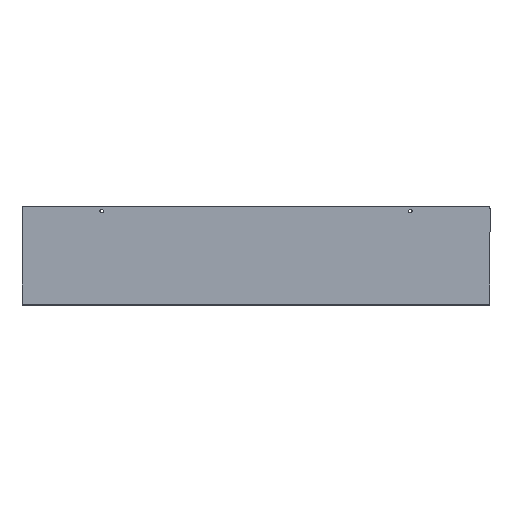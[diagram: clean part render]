
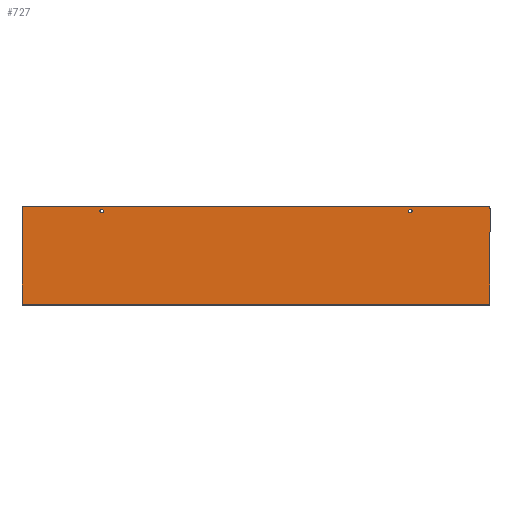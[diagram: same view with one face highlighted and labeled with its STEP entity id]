
A CAD part, top view. The second image highlights one B-rep face of the part: STEP entity #727.
In plain terms, the highlighted planar face has unit normal (0, 0, 1).
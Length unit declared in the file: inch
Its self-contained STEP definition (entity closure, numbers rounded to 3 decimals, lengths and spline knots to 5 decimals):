
#135=CARTESIAN_POINT('',(11.625,2.5,0.055));
#136=VERTEX_POINT('',#135);
#137=CARTESIAN_POINT('',(11.75,2.375,0.055));
#138=VERTEX_POINT('',#137);
#139=CARTESIAN_POINT('',(11.625,2.375,0.055));
#140=DIRECTION('',(0.0,0.0,-1.0));
#141=DIRECTION('',(0.707,0.707,0.0));
#142=AXIS2_PLACEMENT_3D('',#139,#140,#141);
#143=CIRCLE('',#142,0.125);
#144=EDGE_CURVE('',#136,#138,#143,.T.);
#186=CARTESIAN_POINT('',(-11.625,2.5,0.055));
#187=VERTEX_POINT('',#186);
#194=CARTESIAN_POINT('',(-11.625,2.5,0.055));
#195=DIRECTION('',(1.0,0.0,0.0));
#196=VECTOR('',#195,23.25);
#197=LINE('',#194,#196);
#198=EDGE_CURVE('',#187,#136,#197,.T.);
#271=CARTESIAN_POINT('',(-11.75,2.375,0.055));
#272=VERTEX_POINT('',#271);
#273=CARTESIAN_POINT('',(-11.625,2.375,0.055));
#274=DIRECTION('',(0.0,0.0,-1.0));
#275=DIRECTION('',(-0.707,0.707,0.0));
#276=AXIS2_PLACEMENT_3D('',#273,#274,#275);
#277=CIRCLE('',#276,0.125);
#278=EDGE_CURVE('',#272,#187,#277,.T.);
#298=CARTESIAN_POINT('',(-11.75,-2.414,0.055));
#299=VERTEX_POINT('',#298);
#306=CARTESIAN_POINT('',(-11.75,-2.414,0.055));
#307=DIRECTION('',(0.0,1.0,0.0));
#308=VECTOR('',#307,4.789);
#309=LINE('',#306,#308);
#310=EDGE_CURVE('',#299,#272,#309,.T.);
#527=CARTESIAN_POINT('',(-7.8385,2.25,0.055));
#528=VERTEX_POINT('',#527);
#529=CARTESIAN_POINT('',(-7.75,2.25,0.055));
#530=DIRECTION('',(0.0,0.0,-1.0));
#531=DIRECTION('',(1.0,0.0,0.0));
#532=AXIS2_PLACEMENT_3D('',#529,#530,#531);
#533=CIRCLE('',#532,0.0885);
#534=EDGE_CURVE('',#528,#528,#533,.T.);
#547=CARTESIAN_POINT('',(7.6615,2.25,0.055));
#548=VERTEX_POINT('',#547);
#549=CARTESIAN_POINT('',(7.75,2.25,0.055));
#550=DIRECTION('',(0.0,0.0,-1.0));
#551=DIRECTION('',(1.0,0.0,0.0));
#552=AXIS2_PLACEMENT_3D('',#549,#550,#551);
#553=CIRCLE('',#552,0.0885);
#554=EDGE_CURVE('',#548,#548,#553,.T.);
#616=CARTESIAN_POINT('',(11.75,-2.414,0.055));
#617=VERTEX_POINT('',#616);
#681=CARTESIAN_POINT('',(-11.75,-2.414,0.055));
#682=DIRECTION('',(1.0,0.0,0.0));
#683=VECTOR('',#682,23.5);
#684=LINE('',#681,#683);
#685=EDGE_CURVE('',#299,#617,#684,.T.);
#697=CARTESIAN_POINT('',(11.75,2.375,0.055));
#698=DIRECTION('',(0.0,-1.0,0.0));
#699=VECTOR('',#698,4.789);
#700=LINE('',#697,#699);
#701=EDGE_CURVE('',#138,#617,#700,.T.);
#708=CARTESIAN_POINT('',(0.,0.,0.055));
#709=DIRECTION('',(0.0,0.0,1.0));
#710=DIRECTION('',(1.0,0.0,0.0));
#711=AXIS2_PLACEMENT_3D('',#708,#709,#710);
#712=PLANE('',#711);
#713=ORIENTED_EDGE('',*,*,#144,.F.);
#714=ORIENTED_EDGE('',*,*,#198,.F.);
#715=ORIENTED_EDGE('',*,*,#278,.F.);
#716=ORIENTED_EDGE('',*,*,#310,.F.);
#717=ORIENTED_EDGE('',*,*,#685,.T.);
#718=ORIENTED_EDGE('',*,*,#701,.F.);
#719=EDGE_LOOP('',(#713,#714,#715,#716,#717,#718));
#720=FACE_OUTER_BOUND('',#719,.T.);
#721=ORIENTED_EDGE('',*,*,#534,.T.);
#722=EDGE_LOOP('',(#721));
#723=FACE_BOUND('',#722,.T.);
#724=ORIENTED_EDGE('',*,*,#554,.T.);
#725=EDGE_LOOP('',(#724));
#726=FACE_BOUND('',#725,.T.);
#727=ADVANCED_FACE('',(#720,#723,#726),#712,.T.);
